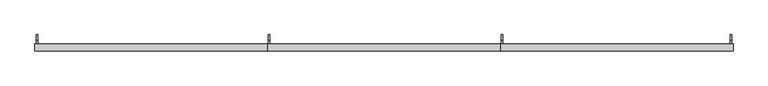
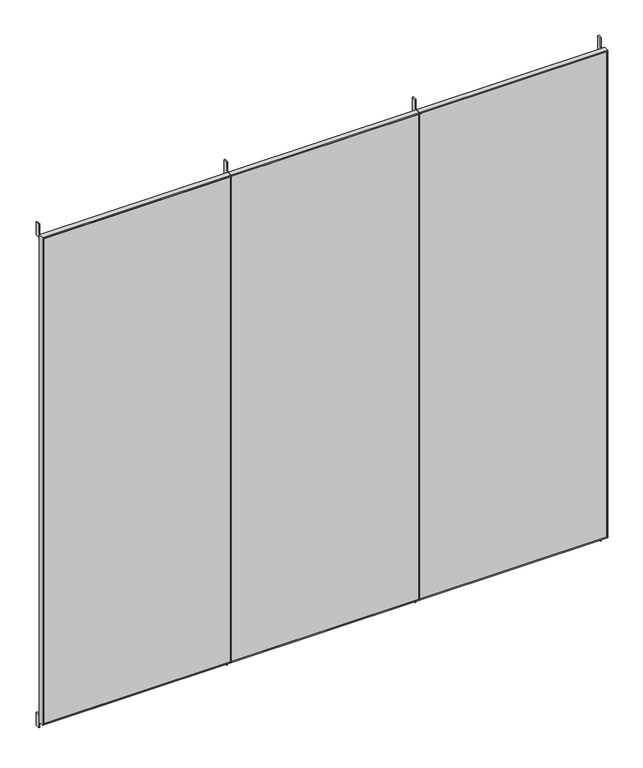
"""IFC4 building model written with IfcOpenShell, lengths in millimetres: furniture geometry, H03 Protección 3 módulos : H3.3 Protección 3 módulos 345x315."""

from ifc_helpers import new_model, si_unit, frame, origin, place, context, project, spatial, polyline, outline, extrude, source, transform, mapped, element, save


def furniture_249bf919(model_context):
    return source(origin(), model_context, "Body", "SweptSolid", [
        extrude(outline(polyline([(3100.0, 44.7003264), (3100.0, -1071.9663402), (50.0, -1071.9663402), (50.0, 44.7003264), (3100.0, 44.7003264)]), holes=[polyline([(3093.0, 41.2003264), (57.0, 41.2003264), (57.0, -1068.4663402), (3093.0, -1068.4663402), (3093.0, 41.2003264)])]), frame((0.0, -600.0, 0.0), z_axis=(0.0, 1.0, 0.0), x_axis=(0.0, 0.0, 1.0)), (0.0, 0.0, 1.0), 32.0),
        extrude(outline(polyline([(1154.3669931, -600.0), (48.2003264, -600.0), (48.2003264, -597.0), (1154.3669931, -597.0), (1154.3669931, -600.0)])), frame((0.0, 0.0, 57.0), z_axis=(0.0, 0.0, 1.0), x_axis=(1.0, 0.0, 0.0)), (0.0, 0.0, 1.0), 3036.0),
        extrude(outline(polyline([(3100.0, 1161.3669931), (3100.0, 44.7003264), (50.0, 44.7003264), (50.0, 1161.3669931), (3100.0, 1161.3669931)]), holes=[polyline([(3093.0, 1154.3669931), (57.0, 1154.3669931), (57.0, 48.2003264), (3093.0, 48.2003264), (3093.0, 1154.3669931)])]), frame((0.0, -600.0, 0.0), z_axis=(0.0, 1.0, 0.0), x_axis=(0.0, 0.0, 1.0)), (0.0, 0.0, 1.0), 32.0),
        extrude(outline(polyline([(41.2003264, -600.0), (-1068.4663402, -600.0), (-1068.4663402, -597.0), (41.2003264, -597.0), (41.2003264, -600.0)])), frame((0.0, 0.0, 57.0), z_axis=(0.0, 0.0, 1.0), x_axis=(1.0, 0.0, 0.0)), (0.0, 0.0, 1.0), 3036.0),
        extrude(outline(polyline([(-1075.4663402, -600.0), (-2181.6330069, -600.0), (-2181.6330069, -597.0), (-1075.4663402, -597.0), (-1075.4663402, -600.0)])), frame((0.0, 0.0, 57.0), z_axis=(0.0, 0.0, 1.0), x_axis=(1.0, 0.0, 0.0)), (0.0, 0.0, 1.0), 3036.0),
        extrude(outline(polyline([(3100.0, -1071.9663402), (3100.0, -2188.6330069), (50.0, -2188.6330069), (50.0, -1071.9663402), (3100.0, -1071.9663402)]), holes=[polyline([(3093.0, -1075.4663402), (57.0, -1075.4663402), (57.0, -2181.6330069), (3093.0, -2181.6330069), (3093.0, -1075.4663402)])]), frame((0.0, -600.0, 0.0), z_axis=(0.0, 1.0, 0.0), x_axis=(0.0, 0.0, 1.0)), (0.0, 0.0, 1.0), 32.0),
        extrude(outline(polyline([(-522.0, 3068.0), (-597.0, 3068.0), (-597.0, 3093.0), (-547.0, 3093.0), (-547.0, 3150.0), (-522.0, 3150.0), (-522.0, 3068.0)])), frame((-2181.6330069, 0.0, 0.0), z_axis=(1.0, 0.0, 0.0), x_axis=(0.0, 1.0, 0.0)), (0.0, 0.0, 1.0), 7.0),
        extrude(outline(polyline([(-522.0, 3068.0), (-597.0, 3068.0), (-597.0, 3093.0), (-547.0, 3093.0), (-547.0, 3150.0), (-522.0, 3150.0), (-522.0, 3068.0)])), frame((-1068.4663402, 0.0, 0.0), z_axis=(1.0, 0.0, 0.0), x_axis=(0.0, 1.0, 0.0)), (0.0, 0.0, 1.0), 7.0),
        extrude(outline(polyline([(-522.0, 3068.0), (-597.0, 3068.0), (-597.0, 3093.0), (-547.0, 3093.0), (-547.0, 3150.0), (-522.0, 3150.0), (-522.0, 3068.0)])), frame((1147.3669931, 0.0, 0.0), z_axis=(1.0, 0.0, 0.0), x_axis=(0.0, 1.0, 0.0)), (0.0, 0.0, 1.0), 7.0),
        extrude(outline(polyline([(-522.0, 82.0), (-522.0, 0.0), (-547.0, 0.0), (-547.0, 57.0), (-597.0, 57.0), (-597.0, 82.0), (-522.0, 82.0)])), frame((1147.3669931, 0.0, 0.0), z_axis=(1.0, 0.0, 0.0), x_axis=(0.0, 1.0, 0.0)), (0.0, 0.0, 1.0), 7.0),
        extrude(outline(polyline([(-522.0, 82.0), (-522.0, 0.0), (-547.0, 0.0), (-547.0, 57.0), (-597.0, 57.0), (-597.0, 82.0), (-522.0, 82.0)])), frame((-2181.6330069, 0.0, 0.0), z_axis=(1.0, 0.0, 0.0), x_axis=(0.0, 1.0, 0.0)), (0.0, 0.0, 1.0), 7.0),
        extrude(outline(polyline([(-522.0, 82.0), (-522.0, 0.0), (-547.0, 0.0), (-547.0, 57.0), (-597.0, 57.0), (-597.0, 82.0), (-522.0, 82.0)])), frame((-1068.4663402, 0.0, 0.0), z_axis=(1.0, 0.0, 0.0), x_axis=(0.0, 1.0, 0.0)), (0.0, 0.0, 1.0), 7.0),
        extrude(outline(polyline([(-522.0, 3068.0), (-597.0, 3068.0), (-597.0, 3093.0), (-547.0, 3093.0), (-547.0, 3150.0), (-522.0, 3150.0), (-522.0, 3068.0)])), frame((48.2003264, 0.0, 0.0), z_axis=(1.0, 0.0, 0.0), x_axis=(0.0, 1.0, 0.0)), (0.0, 0.0, 1.0), 7.0),
        extrude(outline(polyline([(-522.0, 82.0), (-522.0, 0.0), (-547.0, 0.0), (-547.0, 57.0), (-597.0, 57.0), (-597.0, 82.0), (-522.0, 82.0)])), frame((48.2003264, 0.0, 0.0), z_axis=(1.0, 0.0, 0.0), x_axis=(0.0, 1.0, 0.0)), (0.0, 0.0, 1.0), 7.0),
    ])


if __name__ == "__main__":
    model = new_model("IFC4")
    model_context = context("Model", 3, world=origin())
    ifc_project = project(units=[si_unit("LENGTHUNIT", "METRE", prefix="MILLI")], contexts=[model_context])
    site = spatial("IfcSite", under=ifc_project)
    building = spatial("IfcBuilding", under=site)
    placement = place(None, origin())
    furniture_shape = furniture_249bf919(model_context)
    element("IfcFurniture", 1, ObjectType="H03 Protección 3 módulos : H3.3 Protección 3 módulos 345x315", at=placement, inside=building, context=model_context, shape_type="MappedRepresentation", body=[
        mapped(furniture_shape, transform((0.0, 0.0, 0.0), x_axis=(1.0, 0.0, 0.0), y_axis=(0.0, 1.0, 0.0), z_axis=(0.0, 0.0, 1.0))),
    ])
    save(model, "model.ifc")
